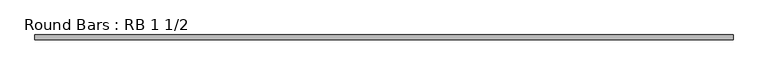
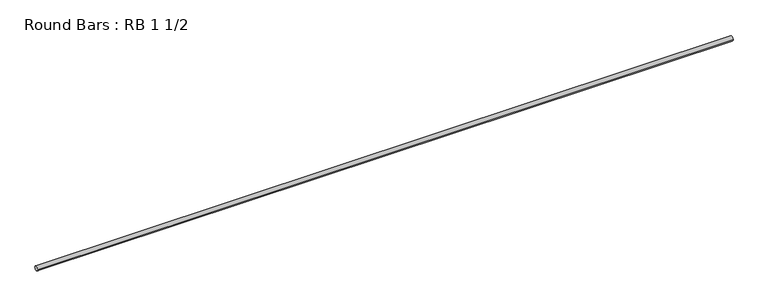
"""IFC4 building model written with IfcOpenShell, lengths in millimetres: member geometry, Round Bars : RB 1 1/2."""

from ifc_helpers import new_model, si_unit, point, frame, origin, origin_2d, place, context, project, spatial, circle_curve, trimmed, segment, composite_curve, outline, extrude, source, transform, mapped, element, save


def round_bars_rb_1_1_2_9955500e(model_context):
    return source(origin(), model_context, "Body", "SweptSolid", [
        extrude(outline(composite_curve([segment(trimmed(circle_curve(origin_2d(), 19.05), [point((19.05, 0.0))], [point((-19.05, 0.0))], False, "CARTESIAN"), True, "CONTINUOUS"), segment(trimmed(circle_curve(origin_2d(), 19.05), [point((-19.05, 0.0))], [point((19.05, 0.0))], False, "CARTESIAN"), True, "CONTINUOUS")], self_intersect=False)), frame((-2826.8705574, 0.0, 0.0), z_axis=(1.0, 0.0, 0.0), x_axis=(0.0, 1.0, 0.0)), (0.0, 0.0, 1.0), 5653.7411147),
    ])


if __name__ == "__main__":
    model = new_model("IFC4")
    model_context = context("Model", 3, world=origin())
    ifc_project = project(units=[si_unit("LENGTHUNIT", "METRE", prefix="MILLI")], contexts=[model_context])
    site = spatial("IfcSite", under=ifc_project)
    building = spatial("IfcBuilding", under=site)
    placement = place(None, origin())
    round_bars_rb_1_1_2_shape = round_bars_rb_1_1_2_9955500e(model_context)
    element("IfcMember", 1, ObjectType="Round Bars : RB 1 1/2", at=placement, inside=building, context=model_context, shape_type="MappedRepresentation", body=[
        mapped(round_bars_rb_1_1_2_shape, transform((0.0, 0.0, 0.0), x_axis=(1.0, 0.0, 0.0), y_axis=(0.0, 1.0, 0.0), z_axis=(0.0, 0.0, 1.0))),
    ])
    save(model, "model.ifc")
